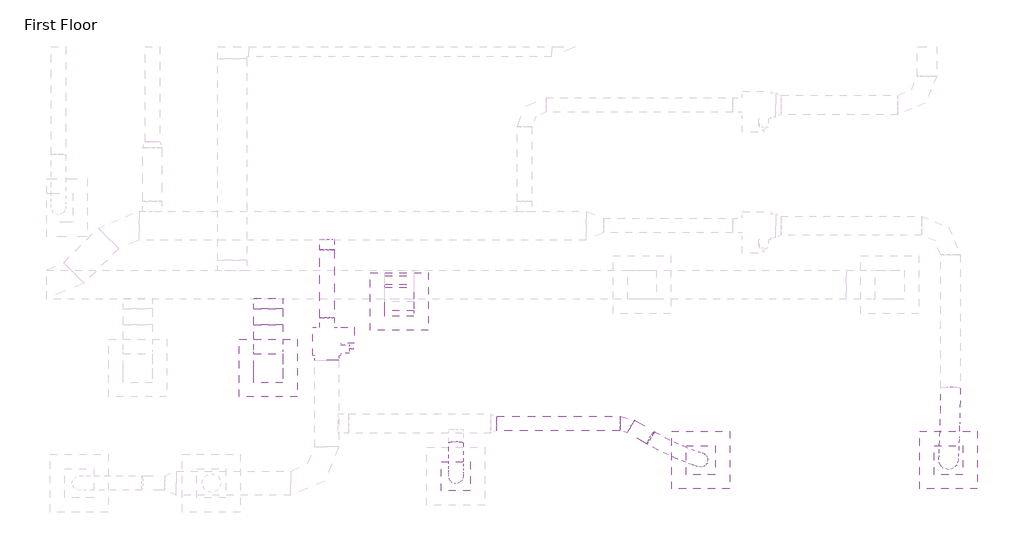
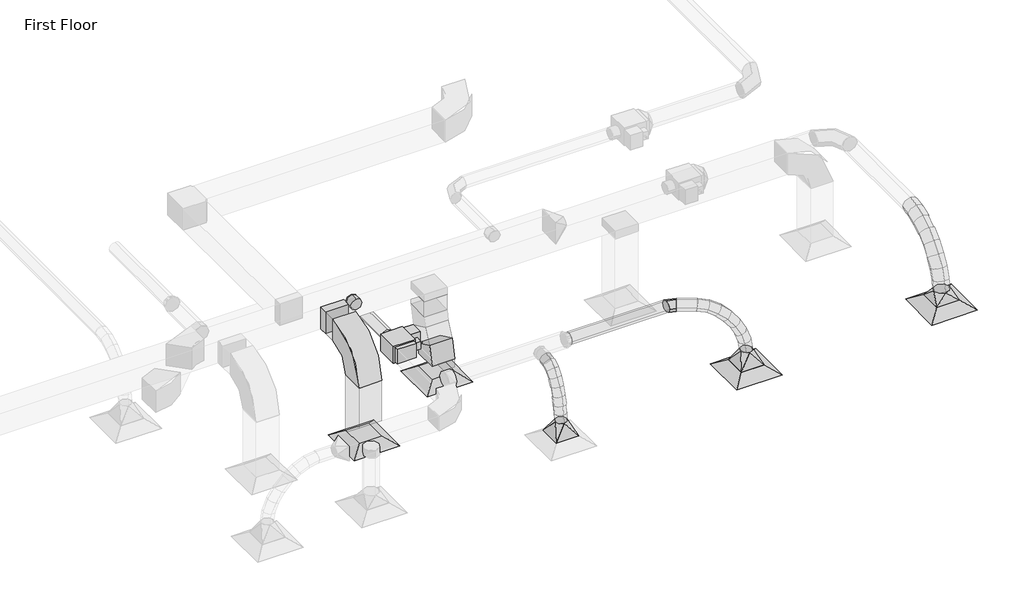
# One storey, part 21 of 61: 11 duct segments, 8 duct fittings, 4 air terminals, 1 proxy.
"""IFC4 building model written with IfcOpenShell, lengths in millimetres."""

from ifc_helpers import new_model, si_unit, point, frame, frame_2d, origin, place, context, project, spatial, polyline, circle_curve, ellipse_curve, trimmed, segment, composite_curve, outline, extrude, transform, mapped, element, save
from ifc_brep_helpers import plane_surface, cylinder_surface, advanced_brep
from components import m_exhaust_grill_er_600_x_600_face_300_x_300_connection_ff221211, m_vav_unit_single_duct_150_mm_e1405e6c, m_rectangular_elbow_radius_1_5_w_86011e9f, m_rectangular_elbow_radius_1_5_w_cf455037, m_rectangular_takeoff_standard_c00386d1, m_rectangular_to_round_transition_angle_45_degree_8f201c83, m_rectangular_to_round_transition_angle_45_degree_60daae35, m_round_elbow_1_5_d_5294a869, m_round_takeoff_standard_d02f3bf7

model = new_model("IFC4")

# Units and contexts
model_context = context("Model", 3, world=origin())
ifc_project = project(units=[si_unit("LENGTHUNIT", "METRE", prefix="MILLI")], contexts=[model_context])

# Site, building, storey
site = spatial("IfcSite", under=ifc_project)
building = spatial("IfcBuilding", under=site)
storey = spatial("IfcBuildingStorey", under=building, Name="First Floor", Elevation=0.0)

# Air terminals
placement = place(None, origin())
m_exhaust_grill_er_600_x_600_face_300_x_300_connection_shape = m_exhaust_grill_er_600_x_600_face_300_x_300_connection_ff221211(model_context)
element("IfcAirTerminal", 1, ObjectType="M_Return Register : RR-600 x 600 Face 300 x 300 Connection", at=placement, inside=storey, context=model_context, shape_type="MappedRepresentation", body=[
    mapped(m_exhaust_grill_er_600_x_600_face_300_x_300_connection_shape, transform((-6528.2669518, 12878.9812473, 2680.0), x_axis=(1.0, 0.0, 0.0), y_axis=(0.0, 1.0, 0.0), z_axis=(0.0, 0.0, 1.0))),
])
element("IfcAirTerminal", 2, ObjectType="M_Return Register : RR-600 x 600 Face 300 x 300 Connection", at=placement, inside=storey, context=model_context, shape_type="MappedRepresentation", body=[
    mapped(m_exhaust_grill_er_600_x_600_face_300_x_300_connection_shape, transform((-7886.2274535, 12189.4764857, 2680.0), x_axis=(1.0, 0.0, 0.0), y_axis=(0.0, 1.0, 0.0), z_axis=(0.0, 0.0, 1.0))),
])
element("IfcAirTerminal", 3, ObjectType="M_Supply Diffuser : SD-600 x 600 Face 300 x 300 Connection", at=placement, inside=storey, context=model_context, shape_type="MappedRepresentation", body=[
    mapped(m_exhaust_grill_er_600_x_600_face_300_x_300_connection_shape, transform((-3405.3572141, 11235.7945584, 2680.0), x_axis=(1.0, 0.0, 0.0), y_axis=(0.0, 1.0, 0.0), z_axis=(0.0, 0.0, 1.0))),
])
element("IfcAirTerminal", 4, ObjectType="M_Supply Diffuser : SD-600 x 600 Face 300 x 300 Connection", at=placement, inside=storey, context=model_context, shape_type="MappedRepresentation", body=[
    mapped(m_exhaust_grill_er_600_x_600_face_300_x_300_connection_shape, transform((-835.9414133, 11235.7945584, 2680.0), x_axis=(1.0, 0.0, 0.0), y_axis=(0.0, 1.0, 0.0), z_axis=(0.0, 0.0, 1.0))),
])

# Proxy
m_vav_unit_single_duct_150_mm_shape = m_vav_unit_single_duct_150_mm_e1405e6c(model_context)
element("IfcBuildingElementProxy", 5, Name="M_VAV Unit - Single Duct : 150 mm", ObjectType="M_VAV Unit - Single Duct : 150 mm", at=placement, inside=storey, context=model_context, shape_type="MappedRepresentation", body=[
    mapped(m_vav_unit_single_duct_150_mm_shape, transform((-7280.0, 12610.6934081, 3509.575), x_axis=(0.0, -1.0000000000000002, 0.0), y_axis=(1.0000000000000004, 0.0, 0.0), z_axis=(0.0, 0.0, 1.0000000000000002))),
])

# Duct fittings
m_rectangular_elbow_radius_1_5_w_shape = m_rectangular_elbow_radius_1_5_w_86011e9f(model_context)
element("IfcDuctFitting", 6, ObjectType="M_Rectangular Elbow - Radius : 1.5 W", at=placement, inside=storey, context=model_context, shape_type="MappedRepresentation", body=[
    mapped(m_rectangular_elbow_radius_1_5_w_shape, transform((-7886.2274535, 12189.4764857, 4000.0), x_axis=(0.0, -1.0, 0.0), y_axis=(0.0, 0.0, -1.0), z_axis=(1.0, 0.0, 0.0))),
])
m_rectangular_elbow_radius_1_5_w_2_shape = m_rectangular_elbow_radius_1_5_w_cf455037(model_context)
element("IfcDuctFitting", 7, ObjectType="M_Rectangular Elbow - Radius : 1.5 W", at=placement, inside=storey, context=model_context, shape_type="MappedRepresentation", body=[
    mapped(m_rectangular_elbow_radius_1_5_w_2_shape, transform((-6528.2669518, 12878.9812473, 3061.6), x_axis=(0.0, 0.0, 1.0), y_axis=(0.0, 1.0, 0.0), z_axis=(-1.0, 0.0, 0.0))),
])
m_rectangular_takeoff_standard_shape = m_rectangular_takeoff_standard_c00386d1(model_context)
element("IfcDuctFitting", 8, ObjectType="M_Rectangular Takeoff : Standard", at=placement, inside=storey, context=model_context, shape_type="MappedRepresentation", body=[
    mapped(m_rectangular_takeoff_standard_shape, transform((-7886.2274535, 12904.4648445, 4000.0), x_axis=(0.0, -1.0, 0.0), y_axis=(-1.0, 0.0, 0.0), z_axis=(0.0, 0.0, -1.0))),
])
m_rectangular_to_round_transition_angle_45_degree_shape = m_rectangular_to_round_transition_angle_45_degree_8f201c83(model_context)
element("IfcDuctFitting", 9, ObjectType="M_Rectangular to Round Transition - Angle : 45 Degree", at=placement, inside=storey, context=model_context, shape_type="MappedRepresentation", body=[
    mapped(m_rectangular_to_round_transition_angle_45_degree_shape, transform((-5942.8549791, 11067.2410676, 2781.6), x_axis=(0.0, 0.0, 1.0), y_axis=(1.0, 0.0, 0.0), z_axis=(0.0, 1.0, 0.0))),
])
element("IfcDuctFitting", 10, ObjectType="M_Rectangular to Round Transition - Angle : 45 Degree", at=placement, inside=storey, context=model_context, shape_type="MappedRepresentation", body=[
    mapped(m_rectangular_to_round_transition_angle_45_degree_shape, transform((-3405.3572141, 11235.7945584, 2781.6), x_axis=(0.0, 0.0, 1.0), y_axis=(1.0, 0.0, 0.0), z_axis=(0.0, 1.0, 0.0))),
])
m_rectangular_to_round_transition_angle_45_degree_2_shape = m_rectangular_to_round_transition_angle_45_degree_60daae35(model_context)
element("IfcDuctFitting", 11, ObjectType="M_Rectangular to Round Transition - Angle : 45 Degree", at=placement, inside=storey, context=model_context, shape_type="MappedRepresentation", body=[
    mapped(m_rectangular_to_round_transition_angle_45_degree_2_shape, transform((-835.9414133, 11235.7945584, 2781.6), x_axis=(0.0, 0.0, 1.0), y_axis=(1.0, 0.0, 0.0), z_axis=(0.0, 1.0, 0.0))),
])
m_round_elbow_1_5_d_shape = m_round_elbow_1_5_d_5294a869(model_context)
element("IfcDuctFitting", 12, ObjectType="M_Round Elbow : 1.5 D", at=placement, inside=storey, context=model_context, shape_type="MappedRepresentation", body=[
    mapped(m_round_elbow_1_5_d_shape, transform((-4180.0, 11614.3322163, 3619.1), x_axis=(-0.8660254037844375, 0.500000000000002, 0.0), y_axis=(-0.500000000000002, -0.8660254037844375, 0.0), z_axis=(0.0, 0.0, 1.0))),
])
m_round_takeoff_standard_shape = m_round_takeoff_standard_d02f3bf7(model_context)
element("IfcDuctFitting", 13, ObjectType="M_Round Takeoff : Standard", at=placement, inside=storey, context=model_context, shape_type="MappedRepresentation", body=[
    mapped(m_round_takeoff_standard_shape, transform((-7280.85, 13516.1148697, 3619.1), x_axis=(0.0, -1.0, 0.0), y_axis=(-1.0, 0.0, 0.0), z_axis=(0.0, 0.0, -1.0))),
])

# Duct segments
element("IfcDuctSegment", 14, ObjectType="Flex - Round", at=placement, inside=storey, context=model_context, shape_type="AdvancedBrep", body=[
    advanced_brep(
    [(-5867.8549791, 11414.3322163, 3619.1), (-5942.8549791, 11429.7449358, 3545.7007624), (-6017.8549791, 11414.3322163, 3619.1), (-5942.8549791, 11398.9194969, 3692.4992376), (-5867.8549791, 11328.3539597, 3601.0458786), (-5942.8549791, 11358.3742766, 3530.7140135), (-6017.8549791, 11328.3539597, 3601.0458786), (-5942.8549791, 11298.3336428, 3671.3777437), (-5867.8549791, 11067.2410676, 2962.6660172), (-5942.8549791, 10992.3272127, 2966.2596716), (-6017.8549791, 11067.2410676, 2962.6660172), (-5942.8549791, 11142.1549224, 2959.0723628), (-5867.8549791, 11255.6783828, 3551.3391374), (-5942.8549791, 11307.2027144, 3495.7150261), (-6017.8549791, 11255.6783828, 3551.3391374), (-5942.8549791, 11204.1540511, 3606.9632486), (-5867.8549791, 11195.7386976, 3476.6632111), (-5942.8549791, 11258.9779851, 3435.6341912), (-6017.8549791, 11195.7386976, 3476.6632111), (-5942.8549791, 11132.49941, 3517.692231), (-5867.8549791, 11147.9681161, 3383.7015344), (-5942.8549791, 11217.1081366, 3354.1553564), (-6017.8549791, 11147.9681161, 3383.7015344), (-5942.8549791, 11078.8280956, 3413.2477125), (-5867.8549791, 11111.7998504, 3279.137542), (-5942.8549791, 11183.99685, 3258.4292204), (-6017.8549791, 11111.7998504, 3279.137542), (-5942.8549791, 11039.6028508, 3299.8458636), (-5867.8549791, 11086.6671124, 3169.6546686), (-5942.8549791, 11160.5243486, 3156.1786456), (-6017.8549791, 11086.6671124, 3169.6546686), (-5942.8549791, 11012.8098762, 3183.1306916), (-5867.8549791, 11072.0031141, 3061.9363487), (-5942.8549791, 11146.759885, 3055.0680985), (-6017.8549791, 11072.0031141, 3061.9363487), (-5942.8549791, 10997.2463433, 3068.804599)],
    [
        (0, 1, circle_curve(frame((-5942.8549791, 11414.3322163, 3619.1), z_axis=(0.0, 0.9786565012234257, 0.20550292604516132), x_axis=(1.0, 0.0, 0.0)), 75.0)),
        (1, 2, circle_curve(frame((-5942.8549791, 11414.3322163, 3619.1), z_axis=(0.0, 0.9786565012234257, 0.20550292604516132), x_axis=(1.0, 0.0, 0.0)), 75.0)),
        (2, 3, circle_curve(frame((-5942.8549791, 11414.3322163, 3619.1), z_axis=(0.0, 0.9786565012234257, 0.20550292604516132), x_axis=(1.0, 0.0, 0.0)), 75.0)),
        (3, 0, circle_curve(frame((-5942.8549791, 11414.3322163, 3619.1), z_axis=(0.0, 0.9786565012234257, 0.20550292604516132), x_axis=(1.0, 0.0, 0.0)), 75.0)),
        (0, 4),
        (4, 5, ellipse_curve(frame((-5942.8549791, 11328.3539597, 3601.0458786), z_axis=(0.0, 0.9197212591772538, 0.3925720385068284), x_axis=(0.0, 0.3925720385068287, -0.9197212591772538)), 76.4708485, 75.0)),
        (5, 1),
        (5, 6, ellipse_curve(frame((-5942.8549791, 11328.3539597, 3601.0458786), z_axis=(0.0, 0.9197212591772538, 0.3925720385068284), x_axis=(0.0, 0.3925720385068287, -0.9197212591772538)), 76.4708485, 75.0)),
        (6, 2),
        (6, 7, ellipse_curve(frame((-5942.8549791, 11328.3539597, 3601.0458786), z_axis=(0.0, 0.9197212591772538, 0.3925720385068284), x_axis=(0.0, 0.3925720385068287, -0.9197212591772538)), 76.4708485, 75.0)),
        (7, 3),
        (7, 4, ellipse_curve(frame((-5942.8549791, 11328.3539597, 3601.0458786), z_axis=(0.0, 0.9197212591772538, 0.3925720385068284), x_axis=(0.0, 0.3925720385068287, -0.9197212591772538)), 76.4708485, 75.0)),
        (8, 9, circle_curve(frame((-5942.8549791, 11067.2410676, 2962.6660172), z_axis=(0.0, -0.04791539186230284, -0.9988513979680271), x_axis=(1.0, 0.0, 0.0)), 75.0)),
        (9, 10, circle_curve(frame((-5942.8549791, 11067.2410676, 2962.6660172), z_axis=(0.0, -0.04791539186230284, -0.9988513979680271), x_axis=(1.0, 0.0, 0.0)), 75.0)),
        (10, 11, circle_curve(frame((-5942.8549791, 11067.2410676, 2962.6660172), z_axis=(0.0, -0.04791539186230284, -0.9988513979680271), x_axis=(1.0, 0.0, 0.0)), 75.0)),
        (11, 8, circle_curve(frame((-5942.8549791, 11067.2410676, 2962.6660172), z_axis=(0.0, -0.04791539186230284, -0.9988513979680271), x_axis=(1.0, 0.0, 0.0)), 75.0)),
        (4, 12),
        (12, 13, ellipse_curve(frame((-5942.8549791, 11255.6783828, 3551.3391374), z_axis=(0.0, 0.7336257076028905, 0.6795537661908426), x_axis=(0.0, 0.6795537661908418, -0.733625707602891)), 75.8208316, 75.0)),
        (13, 5),
        (13, 14, ellipse_curve(frame((-5942.8549791, 11255.6783828, 3551.3391374), z_axis=(0.0, 0.7336257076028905, 0.6795537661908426), x_axis=(0.0, 0.6795537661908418, -0.733625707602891)), 75.8208316, 75.0)),
        (14, 6),
        (14, 15, ellipse_curve(frame((-5942.8549791, 11255.6783828, 3551.3391374), z_axis=(0.0, 0.7336257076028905, 0.6795537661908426), x_axis=(0.0, 0.6795537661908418, -0.733625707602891)), 75.8208316, 75.0)),
        (15, 7),
        (15, 12, ellipse_curve(frame((-5942.8549791, 11255.6783828, 3551.3391374), z_axis=(0.0, 0.7336257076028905, 0.6795537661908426), x_axis=(0.0, 0.6795537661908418, -0.733625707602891)), 75.8208316, 75.0)),
        (12, 16),
        (16, 17, ellipse_curve(frame((-5942.8549791, 11195.7386976, 3476.6632111), z_axis=(0.0, 0.544274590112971, 0.8389071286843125), x_axis=(0.0, 0.8389071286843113, -0.5442745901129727)), 75.3829421, 75.0)),
        (17, 13),
        (17, 18, ellipse_curve(frame((-5942.8549791, 11195.7386976, 3476.6632111), z_axis=(0.0, 0.544274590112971, 0.8389071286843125), x_axis=(0.0, 0.8389071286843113, -0.5442745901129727)), 75.3829421, 75.0)),
        (18, 14),
        (18, 19, ellipse_curve(frame((-5942.8549791, 11195.7386976, 3476.6632111), z_axis=(0.0, 0.544274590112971, 0.8389071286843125), x_axis=(0.0, 0.8389071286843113, -0.5442745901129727)), 75.3829421, 75.0)),
        (19, 15),
        (19, 16, ellipse_curve(frame((-5942.8549791, 11195.7386976, 3476.6632111), z_axis=(0.0, 0.544274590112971, 0.8389071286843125), x_axis=(0.0, 0.8389071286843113, -0.5442745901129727)), 75.3829421, 75.0)),
        (16, 20),
        (20, 21, ellipse_curve(frame((-5942.8549791, 11147.9681161, 3383.7015344), z_axis=(0.0, 0.39296110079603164, 0.9195550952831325), x_axis=(0.0, 0.9195550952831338, -0.39296110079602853)), 75.1885568, 75.0)),
        (21, 17),
        (21, 22, ellipse_curve(frame((-5942.8549791, 11147.9681161, 3383.7015344), z_axis=(0.0, 0.39296110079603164, 0.9195550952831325), x_axis=(0.0, 0.9195550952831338, -0.39296110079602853)), 75.1885568, 75.0)),
        (22, 18),
        (22, 23, ellipse_curve(frame((-5942.8549791, 11147.9681161, 3383.7015344), z_axis=(0.0, 0.39296110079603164, 0.9195550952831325), x_axis=(0.0, 0.9195550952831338, -0.39296110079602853)), 75.1885568, 75.0)),
        (23, 19),
        (23, 20, ellipse_curve(frame((-5942.8549791, 11147.9681161, 3383.7015344), z_axis=(0.0, 0.39296110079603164, 0.9195550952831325), x_axis=(0.0, 0.9195550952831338, -0.39296110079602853)), 75.1885568, 75.0)),
        (20, 24),
        (24, 25, ellipse_curve(frame((-5942.8549791, 11111.7998504, 3279.137542), z_axis=(0.0, 0.27571320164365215, 0.9612399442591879), x_axis=(0.0, 0.9612399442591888, -0.2757132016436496)), 75.1081976, 75.0)),
        (25, 21),
        (25, 26, ellipse_curve(frame((-5942.8549791, 11111.7998504, 3279.137542), z_axis=(0.0, 0.27571320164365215, 0.9612399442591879), x_axis=(0.0, 0.9612399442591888, -0.2757132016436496)), 75.1081976, 75.0)),
        (26, 22),
        (26, 27, ellipse_curve(frame((-5942.8549791, 11111.7998504, 3279.137542), z_axis=(0.0, 0.27571320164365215, 0.9612399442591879), x_axis=(0.0, 0.9612399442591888, -0.2757132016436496)), 75.1081976, 75.0)),
        (27, 23),
        (27, 24, ellipse_curve(frame((-5942.8549791, 11111.7998504, 3279.137542), z_axis=(0.0, 0.27571320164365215, 0.9612399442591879), x_axis=(0.0, 0.9612399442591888, -0.2757132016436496)), 75.1081976, 75.0)),
        (24, 28),
        (28, 29, ellipse_curve(frame((-5942.8549791, 11086.6671124, 3169.6546686), z_axis=(0.0, 0.17949700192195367, 0.9837585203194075), x_axis=(0.0, 0.9837585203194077, -0.1794970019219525)), 75.0765911, 75.0)),
        (29, 25),
        (29, 30, ellipse_curve(frame((-5942.8549791, 11086.6671124, 3169.6546686), z_axis=(0.0, 0.17949700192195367, 0.9837585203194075), x_axis=(0.0, 0.9837585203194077, -0.1794970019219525)), 75.0765911, 75.0)),
        (30, 26),
        (30, 31, ellipse_curve(frame((-5942.8549791, 11086.6671124, 3169.6546686), z_axis=(0.0, 0.17949700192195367, 0.9837585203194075), x_axis=(0.0, 0.9837585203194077, -0.1794970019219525)), 75.0765911, 75.0)),
        (31, 27),
        (31, 28, ellipse_curve(frame((-5942.8549791, 11086.6671124, 3169.6546686), z_axis=(0.0, 0.17949700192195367, 0.9837585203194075), x_axis=(0.0, 0.9837585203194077, -0.1794970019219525)), 75.0765911, 75.0)),
        (28, 32),
        (32, 33, ellipse_curve(frame((-5942.8549791, 11072.0031141, 3061.9363487), z_axis=(0.0, 0.09148930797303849, 0.9958060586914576), x_axis=(0.0, 0.9958060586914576, -0.09148930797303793)), 75.0716168, 75.0)),
        (33, 29),
        (33, 34, ellipse_curve(frame((-5942.8549791, 11072.0031141, 3061.9363487), z_axis=(0.0, 0.09148930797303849, 0.9958060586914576), x_axis=(0.0, 0.9958060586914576, -0.09148930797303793)), 75.0716168, 75.0)),
        (34, 30),
        (34, 35, ellipse_curve(frame((-5942.8549791, 11072.0031141, 3061.9363487), z_axis=(0.0, 0.09148930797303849, 0.9958060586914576), x_axis=(0.0, 0.9958060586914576, -0.09148930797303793)), 75.0716168, 75.0)),
        (35, 31),
        (35, 32, ellipse_curve(frame((-5942.8549791, 11072.0031141, 3061.9363487), z_axis=(0.0, 0.09148930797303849, 0.9958060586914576), x_axis=(0.0, 0.9958060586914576, -0.09148930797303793)), 75.0716168, 75.0)),
        (32, 8),
        (11, 33),
        (10, 34),
        (9, 35),
    ],
    [
        plane_surface(frame((-5942.8549791, 11429.7449358, 3545.7007624), z_axis=(0.0, 0.9786565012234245, 0.2055029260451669), x_axis=(1.0, 0.0, 0.0))),
        cylinder_surface(frame((-5942.8549791, 11414.3322163, 3619.1), z_axis=(0.0, 0.9786565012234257, 0.20550292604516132), x_axis=(1.0, 0.0, 0.0)), 75.0),
        plane_surface(frame((-5942.8549791, 11142.1549224, 2959.0723628), z_axis=(0.0, -0.04791539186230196, -0.9988513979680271), x_axis=(1.0, 0.0, 0.0))),
        cylinder_surface(frame((-5942.8549791, 11328.3539597, 3601.0458786), z_axis=(0.0, 0.8254059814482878, 0.5645396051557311), x_axis=(1.0, 0.0, 0.0)), 75.0),
        cylinder_surface(frame((-5942.8549791, 11255.6783828, 3551.3391374), z_axis=(0.0, 0.6259610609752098, 0.7798543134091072), x_axis=(1.0, 0.0, 0.0)), 75.0),
        cylinder_surface(frame((-5942.8549791, 11195.7386976, 3476.6632111), z_axis=(0.0, 0.45705833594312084, 0.8894367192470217), x_axis=(1.0, 0.0, 0.0)), 75.0),
        cylinder_surface(frame((-5942.8549791, 11147.9681161, 3383.7015344), z_axis=(0.0, 0.326892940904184, 0.9450613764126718), x_axis=(1.0, 0.0, 0.0)), 75.0),
        cylinder_surface(frame((-5942.8549791, 11111.7998504, 3279.137542), z_axis=(0.0, 0.22373910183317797, 0.9746490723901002), x_axis=(1.0, 0.0, 0.0)), 75.0),
        cylinder_surface(frame((-5942.8549791, 11086.6671124, 3169.6546686), z_axis=(0.0, 0.13488866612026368, 0.9908607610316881), x_axis=(1.0, 0.0, 0.0)), 75.0),
        cylinder_surface(frame((-5942.8549791, 11072.0031141, 3061.9363487), z_axis=(0.0, 0.04791539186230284, 0.9988513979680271), x_axis=(1.0, 0.0, 0.0)), 75.0),
    ],
    [
        (0, [[1, 2, 3, 4]]),
        (1, [[-1, 5, 6, 7]]),
        (1, [[-2, -7, 8, 9]]),
        (1, [[-3, -9, 10, 11]]),
        (1, [[-4, -11, 12, -5]]),
        (2, [[13, 14, 15, 16]]),
        (3, [[-6, 17, 18, 19]]),
        (3, [[-8, -19, 20, 21]]),
        (3, [[-10, -21, 22, 23]]),
        (3, [[-12, -23, 24, -17]]),
        (4, [[-18, 25, 26, 27]]),
        (4, [[-20, -27, 28, 29]]),
        (4, [[-22, -29, 30, 31]]),
        (4, [[-24, -31, 32, -25]]),
        (5, [[-26, 33, 34, 35]]),
        (5, [[-28, -35, 36, 37]]),
        (5, [[-30, -37, 38, 39]]),
        (5, [[-32, -39, 40, -33]]),
        (6, [[-34, 41, 42, 43]]),
        (6, [[-36, -43, 44, 45]]),
        (6, [[-38, -45, 46, 47]]),
        (6, [[-40, -47, 48, -41]]),
        (7, [[-42, 49, 50, 51]]),
        (7, [[-44, -51, 52, 53]]),
        (7, [[-46, -53, 54, 55]]),
        (7, [[-48, -55, 56, -49]]),
        (8, [[-50, 57, 58, 59]]),
        (8, [[-52, -59, 60, 61]]),
        (8, [[-54, -61, 62, 63]]),
        (8, [[-56, -63, 64, -57]]),
        (9, [[-58, 65, -16, 66]]),
        (9, [[-60, -66, -15, 67]]),
        (9, [[-62, -67, -14, 68]]),
        (9, [[-64, -68, -13, -65]]),
    ],
),
])
element("IfcDuctSegment", 15, ObjectType="Flex - Round", at=placement, inside=storey, context=model_context, shape_type="AdvancedBrep", body=[
    advanced_brep(
    [(-3884.4628221, 11530.2746061, 3619.1), (-3931.5111181, 11470.4650474, 3545.2130964), (-3955.9219357, 11398.3898265, 3619.1), (-3908.8736397, 11458.1993853, 3692.9869036), (-3778.7006416, 11472.9694971, 3598.1417921), (-3834.0545127, 11417.6601471, 3525.9007506), (-3847.4026378, 11339.590829, 3597.5954319), (-3792.0487668, 11394.9001791, 3669.8364734), (-3373.9607022, 11303.8981359, 2963.7438761), (-3337.8449358, 11204.521271, 2972.1039073), (-3436.7537259, 11167.690981, 2961.5881583), (-3472.8694924, 11267.0678459, 2953.2281271), (-3676.62765, 11423.65903, 3540.822102), (-3745.8558434, 11375.0522298, 3476.372268), (-3741.2292889, 11288.2995192, 3537.9731621), (-3672.0010955, 11336.9063194, 3602.4229961), (-3581.4434124, 11381.9830539, 3453.8719791), (-3660.6785624, 11337.7577532, 3398.5634287), (-3644.0183846, 11245.7361766, 3449.1716935), (-3564.7832345, 11289.9614773, 3504.4802439), (-3498.4253083, 11348.6136985, 3344.8801823), (-3585.2482478, 11307.4383306, 3299.5333964), (-3560.3086058, 11212.0888006, 3339.2718194), (-3473.4856664, 11253.2641685, 3384.6186052), (-3432.7320774, 11324.1202376, 3221.5659024), (-3525.7028199, 11285.2370537, 3187.7592995), (-3494.7572738, 11187.6482461, 3216.2239011), (-3401.7865313, 11226.53143, 3250.030504), (-3389.4594575, 11309.0199553, 3091.5830857), (-3487.3282949, 11271.8459958, 3072.4894392), (-3452.0847115, 11172.7573581, 3088.0435446), (-3354.2158741, 11209.9313176, 3107.1371911)],
    [
        (0, 1, circle_curve(frame((-3920.1923789, 11464.3322163, 3619.1), z_axis=(-0.866182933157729, 0.4693237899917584, 0.17164587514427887), x_axis=(0.47639409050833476, 0.8792318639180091, 0.0)), 75.0)),
        (1, 2, circle_curve(frame((-3920.1923789, 11464.3322163, 3619.1), z_axis=(-0.866182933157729, 0.4693237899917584, 0.17164587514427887), x_axis=(0.47639409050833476, 0.8792318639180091, 0.0)), 75.0)),
        (2, 3, circle_curve(frame((-3920.1923789, 11464.3322163, 3619.1), z_axis=(-0.866182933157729, 0.4693237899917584, 0.17164587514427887), x_axis=(0.47639409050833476, 0.8792318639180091, 0.0)), 75.0)),
        (3, 0, circle_curve(frame((-3920.1923789, 11464.3322163, 3619.1), z_axis=(-0.866182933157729, 0.4693237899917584, 0.17164587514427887), x_axis=(0.47639409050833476, 0.8792318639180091, 0.0)), 75.0)),
        (0, 4),
        (4, 5, ellipse_curve(frame((-3813.0516397, 11406.2801631, 3597.868612), z_axis=(-0.8442779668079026, 0.4335888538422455, 0.3149530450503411), x_axis=(-0.21032394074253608, 0.27246244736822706, -0.9388972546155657)), 75.8454399, 75.0)),
        (5, 1),
        (5, 6, ellipse_curve(frame((-3813.0516397, 11406.2801631, 3597.868612), z_axis=(-0.8442779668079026, 0.4335888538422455, 0.3149530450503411), x_axis=(-0.21032394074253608, 0.27246244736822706, -0.9388972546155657)), 75.8454399, 75.0)),
        (6, 2),
        (6, 7, ellipse_curve(frame((-3813.0516397, 11406.2801631, 3597.868612), z_axis=(-0.8442779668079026, 0.4335888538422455, 0.3149530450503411), x_axis=(-0.21032394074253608, 0.27246244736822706, -0.9388972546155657)), 75.8454399, 75.0)),
        (7, 3),
        (7, 4, ellipse_curve(frame((-3813.0516397, 11406.2801631, 3597.868612), z_axis=(-0.8442779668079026, 0.4335888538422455, 0.3149530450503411), x_axis=(-0.21032394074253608, 0.27246244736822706, -0.9388972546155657)), 75.8454399, 75.0)),
        (8, 9, circle_curve(frame((-3405.3572141, 11235.7945584, 2962.6660172), z_axis=(0.12025995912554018, -0.03974188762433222, -0.991946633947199), x_axis=(0.41862015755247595, 0.9080476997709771, 0.014371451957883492)), 75.0)),
        (9, 10, circle_curve(frame((-3405.3572141, 11235.7945584, 2962.6660172), z_axis=(0.12025995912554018, -0.03974188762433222, -0.991946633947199), x_axis=(0.41862015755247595, 0.9080476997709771, 0.014371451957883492)), 75.0)),
        (10, 11, circle_curve(frame((-3405.3572141, 11235.7945584, 2962.6660172), z_axis=(0.12025995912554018, -0.03974188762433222, -0.991946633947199), x_axis=(0.41862015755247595, 0.9080476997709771, 0.014371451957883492)), 75.0)),
        (11, 8, circle_curve(frame((-3405.3572141, 11235.7945584, 2962.6660172), z_axis=(0.12025995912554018, -0.03974188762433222, -0.991946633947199), x_axis=(0.41862015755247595, 0.9080476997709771, 0.014371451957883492)), 75.0)),
        (4, 12),
        (12, 13, ellipse_curve(frame((-3708.9284695, 11355.9792746, 3539.3976321), z_axis=(-0.7580761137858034, 0.3502200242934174, 0.550151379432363), x_axis=(-0.4388484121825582, 0.35007643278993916, -0.8275618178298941)), 75.5018306, 75.0)),
        (13, 5),
        (13, 14, ellipse_curve(frame((-3708.9284695, 11355.9792746, 3539.3976321), z_axis=(-0.7580761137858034, 0.3502200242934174, 0.550151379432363), x_axis=(-0.4388484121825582, 0.35007643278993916, -0.8275618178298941)), 75.5018306, 75.0)),
        (14, 6),
        (14, 15, ellipse_curve(frame((-3708.9284695, 11355.9792746, 3539.3976321), z_axis=(-0.7580761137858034, 0.3502200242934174, 0.550151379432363), x_axis=(-0.4388484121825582, 0.35007643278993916, -0.8275618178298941)), 75.5018306, 75.0)),
        (15, 7),
        (15, 12, ellipse_curve(frame((-3708.9284695, 11355.9792746, 3539.3976321), z_axis=(-0.7580761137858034, 0.3502200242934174, 0.550151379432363), x_axis=(-0.4388484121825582, 0.35007643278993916, -0.8275618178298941)), 75.5018306, 75.0)),
        (12, 16),
        (16, 17, ellipse_curve(frame((-3612.7308985, 11313.8596152, 3451.5218363), z_axis=(-0.6484836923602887, 0.2733233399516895, 0.7104669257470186), x_axis=(-0.6066333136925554, 0.37825549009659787, -0.6992272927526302)), 75.3320999, 75.0)),
        (17, 13),
        (17, 18, ellipse_curve(frame((-3612.7308985, 11313.8596152, 3451.5218363), z_axis=(-0.6484836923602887, 0.2733233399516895, 0.7104669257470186), x_axis=(-0.6066333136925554, 0.37825549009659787, -0.6992272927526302)), 75.3320999, 75.0)),
        (18, 14),
        (18, 19, ellipse_curve(frame((-3612.7308985, 11313.8596152, 3451.5218363), z_axis=(-0.6484836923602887, 0.2733233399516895, 0.7104669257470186), x_axis=(-0.6066333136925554, 0.37825549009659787, -0.6992272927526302)), 75.3320999, 75.0)),
        (19, 15),
        (19, 16, ellipse_curve(frame((-3612.7308985, 11313.8596152, 3451.5218363), z_axis=(-0.6484836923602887, 0.2733233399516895, 0.7104669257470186), x_axis=(-0.6066333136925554, 0.37825549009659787, -0.6992272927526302)), 75.3320999, 75.0)),
        (16, 20),
        (20, 21, ellipse_curve(frame((-3529.3669571, 11280.3512495, 3342.0760008), z_axis=(-0.5278463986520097, 0.20540477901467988, 0.8241280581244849), x_axis=(-0.735556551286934, 0.3745916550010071, -0.5644799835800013)), 75.2749148, 75.0)),
        (21, 17),
        (21, 22, ellipse_curve(frame((-3529.3669571, 11280.3512495, 3342.0760008), z_axis=(-0.5278463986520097, 0.20540477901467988, 0.8241280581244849), x_axis=(-0.735556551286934, 0.3745916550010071, -0.5644799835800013)), 75.2749148, 75.0)),
        (22, 18),
        (22, 23, ellipse_curve(frame((-3529.3669571, 11280.3512495, 3342.0760008), z_axis=(-0.5278463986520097, 0.20540477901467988, 0.8241280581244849), x_axis=(-0.735556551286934, 0.3745916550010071, -0.5644799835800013)), 75.2749148, 75.0)),
        (23, 19),
        (23, 20, ellipse_curve(frame((-3529.3669571, 11280.3512495, 3342.0760008), z_axis=(-0.5278463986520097, 0.20540477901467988, 0.8241280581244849), x_axis=(-0.735556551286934, 0.3745916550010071, -0.5644799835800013)), 75.2749148, 75.0)),
        (20, 24),
        (24, 25, ellipse_curve(frame((-3463.7446756, 11255.8842419, 3218.8949017), z_axis=(-0.3900856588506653, 0.141676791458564, 0.909813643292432), x_axis=(-0.8380856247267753, 0.3546228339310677, -0.4145541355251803)), 75.2986822, 75.0)),
        (25, 21),
        (25, 26, ellipse_curve(frame((-3463.7446756, 11255.8842419, 3218.8949017), z_axis=(-0.3900856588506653, 0.141676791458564, 0.909813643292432), x_axis=(-0.8380856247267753, 0.3546228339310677, -0.4145541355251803)), 75.2986822, 75.0)),
        (26, 22),
        (26, 27, ellipse_curve(frame((-3463.7446756, 11255.8842419, 3218.8949017), z_axis=(-0.3900856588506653, 0.141676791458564, 0.909813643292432), x_axis=(-0.8380856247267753, 0.3546228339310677, -0.4145541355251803)), 75.2986822, 75.0)),
        (27, 23),
        (27, 24, ellipse_curve(frame((-3463.7446756, 11255.8842419, 3218.8949017), z_axis=(-0.3900856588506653, 0.141676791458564, 0.909813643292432), x_axis=(-0.8380856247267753, 0.3546228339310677, -0.4145541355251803)), 75.2986822, 75.0)),
        (24, 28),
        (28, 29, ellipse_curve(frame((-3420.7720845, 11240.8886567, 3089.8133152), z_axis=(-0.21833817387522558, 0.07507251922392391, 0.972981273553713), x_axis=(-0.9153437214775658, 0.3299233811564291, -0.2308602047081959)), 75.4233996, 75.0)),
        (29, 25),
        (29, 30, ellipse_curve(frame((-3420.7720845, 11240.8886567, 3089.8133152), z_axis=(-0.21833817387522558, 0.07507251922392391, 0.972981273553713), x_axis=(-0.9153437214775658, 0.3299233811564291, -0.2308602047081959)), 75.4233996, 75.0)),
        (30, 26),
        (30, 31, ellipse_curve(frame((-3420.7720845, 11240.8886567, 3089.8133152), z_axis=(-0.21833817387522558, 0.07507251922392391, 0.972981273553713), x_axis=(-0.9153437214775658, 0.3299233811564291, -0.2308602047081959)), 75.4233996, 75.0)),
        (31, 27),
        (31, 28, ellipse_curve(frame((-3420.7720845, 11240.8886567, 3089.8133152), z_axis=(-0.21833817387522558, 0.07507251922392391, 0.972981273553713), x_axis=(-0.9153437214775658, 0.3299233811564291, -0.2308602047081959)), 75.4233996, 75.0)),
        (28, 8),
        (11, 29),
        (10, 30),
        (9, 31),
    ],
    [
        plane_surface(frame((-3920.1923789, 11490.0931604, 3548.6629802), z_axis=(-0.8661829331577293, 0.4693237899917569, 0.17164587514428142), x_axis=(0.4997270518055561, 0.8134845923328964, 0.29751586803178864))),
        cylinder_surface(frame((-3920.1923789, 11464.3322163, 3619.1), z_axis=(-0.866182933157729, 0.4693237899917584, 0.17164587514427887), x_axis=(0.47639409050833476, 0.8792318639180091, 0.0)), 75.0),
        plane_surface(frame((-3405.3572141, 11310.734437, 2959.6635853), z_axis=(0.12025995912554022, -0.03974188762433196, -0.991946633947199), x_axis=(0.9927424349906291, 0.0048142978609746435, 0.12016355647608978))),
        cylinder_surface(frame((-3813.0516397, 11406.2801631, 3597.868612), z_axis=(-0.8035508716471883, 0.38818759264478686, 0.4512387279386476), x_axis=(0.4409616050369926, 0.8974286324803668, 0.013217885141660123)), 75.0),
        cylinder_surface(frame((-3708.9284695, 11355.9792746, 3539.3976321), z_axis=(-0.7025240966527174, 0.30759691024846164, 0.6417507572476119), x_axis=(0.4216865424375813, 0.9063334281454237, 0.027206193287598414)), 75.0),
        cylinder_surface(frame((-3612.7308985, 11313.8596152, 3451.5218363), z_axis=(-0.5887256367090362, 0.23663989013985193, 0.7729189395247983), x_axis=(0.4133786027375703, 0.9098350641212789, 0.03630822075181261)), 75.0),
        cylinder_surface(frame((-3529.3669571, 11280.3512495, 3342.0760008), z_axis=(-0.4631116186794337, 0.17266933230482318, 0.8693175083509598), x_axis=(0.4119076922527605, 0.9104074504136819, 0.03860475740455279)), 75.0),
        cylinder_surface(frame((-3463.7446756, 11255.8842419, 3218.8949017), z_axis=(-0.31396504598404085, 0.10956029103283, 0.9430919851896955), x_axis=(0.4145816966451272, 0.9094362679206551, 0.0323680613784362)), 75.0),
        cylinder_surface(frame((-3420.7720845, 11240.8886567, 3089.8133152), z_axis=(-0.1202599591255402, 0.03974188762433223, 0.9919466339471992), x_axis=(0.41862015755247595, 0.9080476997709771, 0.014371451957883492)), 75.0),
    ],
    [
        (0, [[1, 2, 3, 4]]),
        (1, [[-1, 5, 6, 7]]),
        (1, [[-2, -7, 8, 9]]),
        (1, [[-3, -9, 10, 11]]),
        (1, [[-4, -11, 12, -5]]),
        (2, [[13, 14, 15, 16]]),
        (3, [[-6, 17, 18, 19]]),
        (3, [[-8, -19, 20, 21]]),
        (3, [[-10, -21, 22, 23]]),
        (3, [[-12, -23, 24, -17]]),
        (4, [[-18, 25, 26, 27]]),
        (4, [[-20, -27, 28, 29]]),
        (4, [[-22, -29, 30, 31]]),
        (4, [[-24, -31, 32, -25]]),
        (5, [[-26, 33, 34, 35]]),
        (5, [[-28, -35, 36, 37]]),
        (5, [[-30, -37, 38, 39]]),
        (5, [[-32, -39, 40, -33]]),
        (6, [[-34, 41, 42, 43]]),
        (6, [[-36, -43, 44, 45]]),
        (6, [[-38, -45, 46, 47]]),
        (6, [[-40, -47, 48, -41]]),
        (7, [[-42, 49, 50, 51]]),
        (7, [[-44, -51, 52, 53]]),
        (7, [[-46, -53, 54, 55]]),
        (7, [[-48, -55, 56, -49]]),
        (8, [[-50, 57, -16, 58]]),
        (8, [[-52, -58, -15, 59]]),
        (8, [[-54, -59, -14, 60]]),
        (8, [[-56, -60, -13, -57]]),
    ],
),
])
element("IfcDuctSegment", 16, ObjectType="Flex - Round", at=placement, inside=storey, context=model_context, shape_type="AdvancedBrep", body=[
    advanced_brep(
    [(-715.9180485, 11982.6505213, 3619.1), (-815.8334605, 11995.8810041, 3519.893827), (-915.9137508, 11983.9616613, 3619.1), (-815.9983388, 11970.7311784, 3718.306173), (-716.7818456, 11850.8906014, 3602.3980079), (-816.6232436, 11875.4108624, 3504.6229361), (-916.7708963, 11853.2163415, 3602.5266194), (-816.9294983, 11828.6960805, 3700.3016912), (-735.9743853, 11233.2455647, 2902.0009444), (-838.4239474, 11136.7689301, 2916.0133037), (-935.9084414, 11238.3435522, 2902.6204118), (-833.4588793, 11334.8201868, 2888.6080526), (-719.064158, 11718.8817248, 3555.3076201), (-818.5686547, 11762.8883447, 3464.483749), (-919.0256143, 11722.8035192, 3556.0055783), (-819.5211176, 11678.7968993, 3646.8294494), (-722.2833389, 11592.6242582, 3482.7250147), (-821.4013372, 11651.7894897, 3400.6154918), (-922.2208558, 11597.4849653, 3483.9627329), (-823.1028575, 11538.3197338, 3566.0722558), (-725.9675309, 11477.401437, 3389.372888), (-824.6869905, 11549.0309359, 3317.3617629), (-925.889782, 11482.7395821, 3390.9974207), (-827.1703225, 11411.1100831, 3463.0085459), (-729.6467921, 11378.5297019, 3279.9488325), (-827.9621522, 11461.0184494, 3219.9559349), (-929.5636392, 11384.0130666, 3281.7340836), (-831.2482791, 11301.5243191, 3341.7269812), (-732.8520131, 11301.3445486, 3159.1561795), (-830.766167, 11393.4947725, 3114.2832281), (-932.7728406, 11306.7320608, 3160.7914243), (-834.8586867, 11214.581837, 3205.6643757), (-735.1153446, 11251.173491, 3031.7174548), (-832.6767978, 11351.1419973, 3006.7036013), (-935.0465396, 11256.3311886, 3032.768951), (-837.4850863, 11156.3626823, 3057.7828045)],
    [
        (0, 1, circle_curve(frame((-815.9158996, 11983.3060913, 3619.1), z_axis=(0.006503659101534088, 0.9920404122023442, 0.1257518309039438), x_axis=(0.9999785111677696, -0.00655570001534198, 0.0)), 100.0)),
        (1, 2, circle_curve(frame((-815.9158996, 11983.3060913, 3619.1), z_axis=(0.006503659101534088, 0.9920404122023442, 0.1257518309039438), x_axis=(0.9999785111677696, -0.00655570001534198, 0.0)), 100.0)),
        (2, 3, circle_curve(frame((-815.9158996, 11983.3060913, 3619.1), z_axis=(0.006503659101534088, 0.9920404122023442, 0.1257518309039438), x_axis=(0.9999785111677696, -0.00655570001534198, 0.0)), 100.0)),
        (3, 0, circle_curve(frame((-815.9158996, 11983.3060913, 3619.1), z_axis=(0.006503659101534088, 0.9920404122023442, 0.1257518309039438), x_axis=(0.9999785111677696, -0.00655570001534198, 0.0)), 100.0)),
        (0, 4),
        (4, 5, ellipse_curve(frame((-816.7763709, 11852.0534715, 3602.4623136), z_axis=(0.011460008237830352, 0.972598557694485, 0.23220834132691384), x_axis=(-0.04519764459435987, 0.23249008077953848, -0.9715480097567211)), 100.5902404, 100.0)),
        (5, 1),
        (5, 6, ellipse_curve(frame((-816.7763709, 11852.0534715, 3602.4623136), z_axis=(0.011460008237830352, 0.972598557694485, 0.23220834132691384), x_axis=(-0.04519764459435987, 0.23249008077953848, -0.9715480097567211)), 100.5902404, 100.0)),
        (6, 2),
        (6, 7, ellipse_curve(frame((-816.7763709, 11852.0534715, 3602.4623136), z_axis=(0.011460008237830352, 0.972598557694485, 0.23220834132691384), x_axis=(-0.04519764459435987, 0.23249008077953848, -0.9715480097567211)), 100.5902404, 100.0)),
        (7, 3),
        (7, 4, ellipse_curve(frame((-816.7763709, 11852.0534715, 3602.4623136), z_axis=(0.011460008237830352, 0.972598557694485, 0.23220834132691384), x_axis=(-0.04519764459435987, 0.23249008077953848, -0.9715480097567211)), 100.5902404, 100.0)),
        (8, 9, circle_curve(frame((-835.9414133, 11235.7945584, 2902.3106781), z_axis=(-0.006559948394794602, -0.13690418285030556, -0.9905625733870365), x_axis=(0.9996702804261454, -0.02548993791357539, -0.003097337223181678)), 100.0)),
        (9, 10, circle_curve(frame((-835.9414133, 11235.7945584, 2902.3106781), z_axis=(-0.006559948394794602, -0.13690418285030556, -0.9905625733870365), x_axis=(0.9996702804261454, -0.02548993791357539, -0.003097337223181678)), 100.0)),
        (10, 11, circle_curve(frame((-835.9414133, 11235.7945584, 2902.3106781), z_axis=(-0.006559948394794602, -0.13690418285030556, -0.9905625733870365), x_axis=(0.9996702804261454, -0.02548993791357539, -0.003097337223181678)), 100.0)),
        (11, 8, circle_curve(frame((-835.9414133, 11235.7945584, 2902.3106781), z_axis=(-0.006559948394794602, -0.13690418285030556, -0.9905625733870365), x_axis=(0.9996702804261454, -0.02548993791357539, -0.003097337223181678)), 100.0)),
        (4, 12),
        (12, 13, ellipse_curve(frame((-819.0448862, 11720.842622, 3555.6565992), z_axis=(0.019267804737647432, 0.9078815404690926, 0.4187837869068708), x_axis=(-0.03251490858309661, 0.4192089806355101, -0.907307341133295)), 100.4025454, 100.0)),
        (13, 5),
        (13, 14, ellipse_curve(frame((-819.0448862, 11720.842622, 3555.6565992), z_axis=(0.019267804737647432, 0.9078815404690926, 0.4187837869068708), x_axis=(-0.03251490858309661, 0.4192089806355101, -0.907307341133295)), 100.4025454, 100.0)),
        (14, 6),
        (14, 15, ellipse_curve(frame((-819.0448862, 11720.842622, 3555.6565992), z_axis=(0.019267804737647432, 0.9078815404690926, 0.4187837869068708), x_axis=(-0.03251490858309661, 0.4192089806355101, -0.907307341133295)), 100.4025454, 100.0)),
        (15, 7),
        (15, 12, ellipse_curve(frame((-819.0448862, 11720.842622, 3555.6565992), z_axis=(0.019267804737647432, 0.9078815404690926, 0.4187837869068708), x_axis=(-0.03251490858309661, 0.4192089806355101, -0.907307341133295)), 100.4025454, 100.0)),
        (12, 16),
        (16, 17, ellipse_curve(frame((-822.2520973, 11595.0546117, 3483.3438738), z_axis=(0.023542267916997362, 0.824355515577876, 0.5655826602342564), x_axis=(-0.01721502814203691, 0.5659898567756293, -0.8242324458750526)), 100.3174842, 100.0)),
        (17, 13),
        (17, 18, ellipse_curve(frame((-822.2520973, 11595.0546117, 3483.3438738), z_axis=(0.023542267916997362, 0.824355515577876, 0.5655826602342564), x_axis=(-0.01721502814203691, 0.5659898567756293, -0.8242324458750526)), 100.3174842, 100.0)),
        (18, 14),
        (18, 19, ellipse_curve(frame((-822.2520973, 11595.0546117, 3483.3438738), z_axis=(0.023542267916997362, 0.824355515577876, 0.5655826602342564), x_axis=(-0.01721502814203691, 0.5659898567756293, -0.8242324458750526)), 100.3174842, 100.0)),
        (19, 15),
        (19, 16, ellipse_curve(frame((-822.2520973, 11595.0546117, 3483.3438738), z_axis=(0.023542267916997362, 0.824355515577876, 0.5655826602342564), x_axis=(-0.01721502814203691, 0.5659898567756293, -0.8242324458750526)), 100.3174842, 100.0)),
        (16, 20),
        (20, 21, ellipse_curve(frame((-825.9286565, 11480.0705095, 3390.1851544), z_axis=(0.024963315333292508, 0.7256639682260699, 0.6875962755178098), x_axis=(-0.0006722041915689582, 0.6878226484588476, -0.7258784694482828)), 100.3012405, 100.0)),
        (21, 17),
        (21, 22, ellipse_curve(frame((-825.9286565, 11480.0705095, 3390.1851544), z_axis=(0.024963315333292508, 0.7256639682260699, 0.6875962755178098), x_axis=(-0.0006722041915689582, 0.6878226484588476, -0.7258784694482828)), 100.3012405, 100.0)),
        (22, 18),
        (22, 23, ellipse_curve(frame((-825.9286565, 11480.0705095, 3390.1851544), z_axis=(0.024963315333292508, 0.7256639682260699, 0.6875962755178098), x_axis=(-0.0006722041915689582, 0.6878226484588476, -0.7258784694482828)), 100.3012405, 100.0)),
        (23, 19),
        (23, 20, ellipse_curve(frame((-825.9286565, 11480.0705095, 3390.1851544), z_axis=(0.024963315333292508, 0.7256639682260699, 0.6875962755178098), x_axis=(-0.0006722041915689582, 0.6878226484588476, -0.7258784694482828)), 100.3012405, 100.0)),
        (20, 24),
        (24, 25, ellipse_curve(frame((-829.6052157, 11381.2713842, 3280.8414581), z_axis=(0.023729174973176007, 0.6063567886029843, 0.7948385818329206), x_axis=(0.015582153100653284, 0.7947415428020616, -0.606747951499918)), 100.3461062, 100.0)),
        (25, 21),
        (25, 26, ellipse_curve(frame((-829.6052157, 11381.2713842, 3280.8414581), z_axis=(0.023729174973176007, 0.6063567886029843, 0.7948385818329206), x_axis=(0.015582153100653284, 0.7947415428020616, -0.606747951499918)), 100.3461062, 100.0)),
        (26, 22),
        (26, 27, ellipse_curve(frame((-829.6052157, 11381.2713842, 3280.8414581), z_axis=(0.023729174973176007, 0.6063567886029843, 0.7948385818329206), x_axis=(0.015582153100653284, 0.7947415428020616, -0.606747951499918)), 100.3461062, 100.0)),
        (27, 23),
        (27, 24, ellipse_curve(frame((-829.6052157, 11381.2713842, 3280.8414581), z_axis=(0.023729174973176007, 0.6063567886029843, 0.7948385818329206), x_axis=(0.015582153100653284, 0.7947415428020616, -0.606747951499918)), 100.3461062, 100.0)),
        (24, 28),
        (28, 29, ellipse_curve(frame((-832.8124268, 11304.0383047, 3159.9738019), z_axis=(0.01953023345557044, 0.4544203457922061, 0.8905732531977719), x_axis=(0.030166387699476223, 0.8900697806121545, -0.45482499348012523)), 100.4703164, 100.0)),
        (29, 25),
        (29, 30, ellipse_curve(frame((-832.8124268, 11304.0383047, 3159.9738019), z_axis=(0.01953023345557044, 0.4544203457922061, 0.8905732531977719), x_axis=(0.030166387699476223, 0.8900697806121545, -0.45482499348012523)), 100.4703164, 100.0)),
        (30, 26),
        (30, 31, ellipse_curve(frame((-832.8124268, 11304.0383047, 3159.9738019), z_axis=(0.01953023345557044, 0.4544203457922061, 0.8905732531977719), x_axis=(0.030166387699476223, 0.8900697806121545, -0.45482499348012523)), 100.4703164, 100.0)),
        (31, 27),
        (31, 28, ellipse_curve(frame((-832.8124268, 11304.0383047, 3159.9738019), z_axis=(0.01953023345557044, 0.4544203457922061, 0.8905732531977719), x_axis=(0.030166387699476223, 0.8900697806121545, -0.45482499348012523)), 100.4703164, 100.0)),
        (28, 32),
        (32, 33, ellipse_curve(frame((-835.0809421, 11253.7523398, 3032.2432029), z_axis=(0.011623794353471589, 0.2533784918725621, 0.9672973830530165), x_axis=(0.04197848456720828, 0.9663862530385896, -0.2536442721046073)), 100.711688, 100.0)),
        (33, 29),
        (33, 34, ellipse_curve(frame((-835.0809421, 11253.7523398, 3032.2432029), z_axis=(0.011623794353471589, 0.2533784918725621, 0.9672973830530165), x_axis=(0.04197848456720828, 0.9663862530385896, -0.2536442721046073)), 100.711688, 100.0)),
        (34, 30),
        (34, 35, ellipse_curve(frame((-835.0809421, 11253.7523398, 3032.2432029), z_axis=(0.011623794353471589, 0.2533784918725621, 0.9672973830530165), x_axis=(0.04197848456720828, 0.9663862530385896, -0.2536442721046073)), 100.711688, 100.0)),
        (35, 31),
        (35, 32, ellipse_curve(frame((-835.0809421, 11253.7523398, 3032.2432029), z_axis=(0.011623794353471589, 0.2533784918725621, 0.9672973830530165), x_axis=(0.04197848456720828, 0.9663862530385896, -0.2536442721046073)), 100.711688, 100.0)),
        (32, 8),
        (11, 33),
        (10, 34),
        (9, 35),
    ],
    [
        plane_surface(frame((-815.9158996, 11995.8815403, 3519.8938607), z_axis=(0.006503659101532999, 0.9920404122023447, 0.1257518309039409), x_axis=(0.9999788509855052, -0.006452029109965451, -0.0008178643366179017))),
        cylinder_surface(frame((-815.9158996, 11983.3060913, 3619.1), z_axis=(0.0065036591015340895, 0.9920404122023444, 0.12575183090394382), x_axis=(0.9999785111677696, -0.00655570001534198, 0.0)), 100.0),
        plane_surface(frame((-835.9414133, 11334.8529472, 2888.6199653), z_axis=(-0.006559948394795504, -0.13690418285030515, -0.9905625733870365), x_axis=(0.9999784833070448, -0.0008981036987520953, -0.0064981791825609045))),
        cylinder_surface(frame((-816.7763709, 11852.0534715, 3602.4623136), z_axis=(0.016281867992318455, 0.9417427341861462, 0.33593976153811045), x_axis=(0.9998619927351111, -0.016444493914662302, -0.0023609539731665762)), 100.0),
        cylinder_surface(frame((-819.0448862, 11720.842622, 3555.6565992), z_axis=(0.022099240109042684, 0.8667403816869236, 0.49826974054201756), x_axis=(0.9997330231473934, -0.0225214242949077, -0.005164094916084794)), 100.0),
        cylinder_surface(frame((-822.2520973, 11595.0546117, 3483.3438738), z_axis=(0.024836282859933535, 0.7767528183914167, 0.6293156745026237), x_axis=(0.9996365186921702, -0.025900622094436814, -0.007482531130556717)), 100.0),
        cylinder_surface(frame((-825.9286565, 11480.0705095, 3390.1851544), z_axis=(0.024940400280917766, 0.6702162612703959, 0.7417466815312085), x_axis=(0.9995858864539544, -0.027372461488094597, -0.008877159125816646)), 100.0),
        cylinder_surface(frame((-829.6052157, 11381.2713842, 3280.8414581), z_axis=(0.02235425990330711, 0.5383145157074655, 0.8424474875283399), x_axis=(0.999582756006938, -0.027452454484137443, -0.008982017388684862)), 100.0),
        cylinder_surface(frame((-832.8124268, 11304.0383047, 3159.9738019), z_axis=(0.016523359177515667, 0.36627175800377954, 0.9303612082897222), x_axis=(0.9996199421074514, -0.026587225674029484, -0.007286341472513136)), 100.0),
        cylinder_surface(frame((-835.0809421, 11253.7523398, 3032.2432029), z_axis=(0.006559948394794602, 0.13690418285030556, 0.9905625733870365), x_axis=(0.9996702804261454, -0.02548993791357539, -0.003097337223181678)), 100.0),
    ],
    [
        (0, [[1, 2, 3, 4]]),
        (1, [[-1, 5, 6, 7]]),
        (1, [[-2, -7, 8, 9]]),
        (1, [[-3, -9, 10, 11]]),
        (1, [[-4, -11, 12, -5]]),
        (2, [[13, 14, 15, 16]]),
        (3, [[-6, 17, 18, 19]]),
        (3, [[-8, -19, 20, 21]]),
        (3, [[-10, -21, 22, 23]]),
        (3, [[-12, -23, 24, -17]]),
        (4, [[-18, 25, 26, 27]]),
        (4, [[-20, -27, 28, 29]]),
        (4, [[-22, -29, 30, 31]]),
        (4, [[-24, -31, 32, -25]]),
        (5, [[-26, 33, 34, 35]]),
        (5, [[-28, -35, 36, 37]]),
        (5, [[-30, -37, 38, 39]]),
        (5, [[-32, -39, 40, -33]]),
        (6, [[-34, 41, 42, 43]]),
        (6, [[-36, -43, 44, 45]]),
        (6, [[-38, -45, 46, 47]]),
        (6, [[-40, -47, 48, -41]]),
        (7, [[-42, 49, 50, 51]]),
        (7, [[-44, -51, 52, 53]]),
        (7, [[-46, -53, 54, 55]]),
        (7, [[-48, -55, 56, -49]]),
        (8, [[-50, 57, 58, 59]]),
        (8, [[-52, -59, 60, 61]]),
        (8, [[-54, -61, 62, 63]]),
        (8, [[-56, -63, 64, -57]]),
        (9, [[-58, 65, -16, 66]]),
        (9, [[-60, -66, -15, 67]]),
        (9, [[-62, -67, -14, 68]]),
        (9, [[-64, -68, -13, -65]]),
    ],
),
])
element("IfcDuctSegment", 17, ObjectType="Radius Elbows / Taps", at=placement, inside=storey, context=model_context, shape_type="SweptSolid", body=[
    extrude(outline(polyline([(-7736.2274535, 12339.4764857), (-7736.2274535, 12039.4764857), (-8036.2274535, 12039.4764857), (-8036.2274535, 12339.4764857), (-7736.2274535, 12339.4764857)])), frame((0.0, 0.0, 2781.6), z_axis=(0.0, 0.0, 1.0), x_axis=(1.0, 0.0, 0.0)), (0.0, 0.0, 1.0), 768.4),
])
element("IfcDuctSegment", 18, ObjectType="Radius Elbows / Taps", at=placement, inside=storey, context=model_context, shape_type="SweptSolid", body=[
    extrude(outline(polyline([(-8036.2274535, 12804.4648445), (-7736.2274535, 12804.4648445), (-7736.2274535, 12639.4764857), (-8036.2274535, 12639.4764857), (-8036.2274535, 12804.4648445)])), frame((0.0, 0.0, 3850.0), z_axis=(0.0, 0.0, 1.0), x_axis=(1.0, 0.0, 0.0)), (0.0, 0.0, 1.0), 300.0),
])
element("IfcDuctSegment", 19, ObjectType="Radius Elbows / Taps", at=placement, inside=storey, context=model_context, shape_type="SweptSolid", body=[
    extrude(outline(polyline([(-6678.2669518, 13028.9812473), (-6378.2669518, 13028.9812473), (-6378.2669518, 12728.9812473), (-6678.2669518, 12728.9812473), (-6678.2669518, 13028.9812473)])), frame((0.0, 0.0, 2781.6), z_axis=(0.0, 0.0, 1.0), x_axis=(1.0, 0.0, 0.0)), (0.0, 0.0, 1.0), 180.2374018),
])
element("IfcDuctSegment", 20, ObjectType="Radius Elbows / Taps", at=placement, inside=storey, context=model_context, shape_type="SweptSolid", body=[
    extrude(outline(polyline([(-150.0, 362.1320344), (150.0, 362.1320344), (150.0, 62.1320343), (-150.0, 62.1320343), (-150.0, 362.1320344)])), frame((-6528.2669518, 12728.8858285, 3241.6664912), z_axis=(0.0, 0.42261826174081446, 0.9063077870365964), x_axis=(1.0, 0.0, 0.0)), (0.0, 0.0, 1.0), 215.7043691),
])
element("IfcDuctSegment", 21, ObjectType="Radius Elbows / Taps", at=placement, inside=storey, context=model_context, shape_type="SweptSolid", body=[
    extrude(outline(polyline([(-6378.2669518, 12904.4648445), (-6678.2669518, 12904.4648445), (-6678.2669518, 13204.4648445), (-6378.2669518, 13204.4648445), (-6378.2669518, 12904.4648445)])), frame((0.0, 0.0, 3537.6883868), z_axis=(0.0, 0.0, 1.0), x_axis=(1.0, 0.0, 0.0)), (0.0, 0.0, 1.0), 212.3116132),
])
element("IfcDuctSegment", 22, ObjectType="Taps", at=placement, inside=storey, context=model_context, shape_type="SweptSolid", body=[
    extrude(outline(composite_curve([segment(trimmed(circle_curve(frame_2d((11614.3322163, 3619.1)), 75.0), [point((11539.3322163, 3619.1))], [point((11614.3322163, 3694.1))], False, "CARTESIAN"), True, "CONTINUOUS"), segment(trimmed(circle_curve(frame_2d((11614.3322163, 3619.1)), 75.0), [point((11614.3322163, 3694.1))], [point((11689.3322163, 3619.1))], False, "CARTESIAN"), True, "CONTINUOUS"), segment(trimmed(circle_curve(frame_2d((11614.3322163, 3619.1)), 75.0), [point((11689.3322163, 3619.1))], [point((11614.3322163, 3544.1))], False, "CARTESIAN"), True, "CONTINUOUS"), segment(trimmed(circle_curve(frame_2d((11614.3322163, 3619.1)), 75.0), [point((11614.3322163, 3544.1))], [point((11539.3322163, 3619.1))], False, "CARTESIAN"), True, "CONTINUOUS")], self_intersect=False)), frame((-5519.6446609, 0.0, 0.0), z_axis=(1.0, 0.0, 0.0), x_axis=(0.0, 1.0, 0.0)), (0.0, 0.0, 1.0), 1279.3560926),
])
element("IfcDuctSegment", 23, ObjectType="Taps", at=placement, inside=storey, context=model_context, shape_type="SweptSolid", body=[
    extrude(outline(composite_curve([segment(trimmed(circle_curve(frame_2d((0.0, -75.0)), 75.0), [point((-75.0, -75.0))], [point((0.0, 0.0))], False, "CARTESIAN"), True, "CONTINUOUS"), segment(trimmed(circle_curve(frame_2d((0.0, -75.0)), 75.0), [point((0.0, 0.0))], [point((75.0, -75.0))], False, "CARTESIAN"), True, "CONTINUOUS"), segment(trimmed(circle_curve(frame_2d((0.0, -75.0)), 75.0), [point((75.0, -75.0))], [point((0.0, -150.0))], False, "CARTESIAN"), True, "CONTINUOUS"), segment(trimmed(circle_curve(frame_2d((0.0, -75.0)), 75.0), [point((0.0, -150.0))], [point((-75.0, -75.0))], False, "CARTESIAN"), True, "CONTINUOUS")], self_intersect=False)), frame((-3920.1923789, 11464.3322163, 3544.1), z_axis=(-0.8660254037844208, 0.5000000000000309, 0.0), x_axis=(0.5000000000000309, 0.8660254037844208, 0.0)), (0.0, 0.0, 1.0), 239.7114317),
])
element("IfcDuctSegment", 24, ObjectType="Taps", at=placement, inside=storey, context=model_context, shape_type="SweptSolid", body=[
    extrude(outline(composite_curve([segment(trimmed(circle_curve(frame_2d((3619.1, -7280.85)), 75.0), [point((3619.1, -7355.85))], [point((3544.1, -7280.85))], False, "CARTESIAN"), True, "CONTINUOUS"), segment(trimmed(circle_curve(frame_2d((3619.1, -7280.85)), 75.0), [point((3544.1, -7280.85))], [point((3619.1, -7205.85))], False, "CARTESIAN"), True, "CONTINUOUS"), segment(trimmed(circle_curve(frame_2d((3619.1, -7280.85)), 75.0), [point((3619.1, -7205.85))], [point((3694.1, -7280.85))], False, "CARTESIAN"), True, "CONTINUOUS"), segment(trimmed(circle_curve(frame_2d((3619.1, -7280.85)), 75.0), [point((3694.1, -7280.85))], [point((3619.1, -7355.85))], False, "CARTESIAN"), True, "CONTINUOUS")], self_intersect=False)), frame((0.0, 12712.2934081, 0.0), z_axis=(0.0, 1.0, 0.0), x_axis=(0.0, 0.0, 1.0)), (0.0, 0.0, 1.0), 703.8214616),
])

save(model, "model.ifc")
